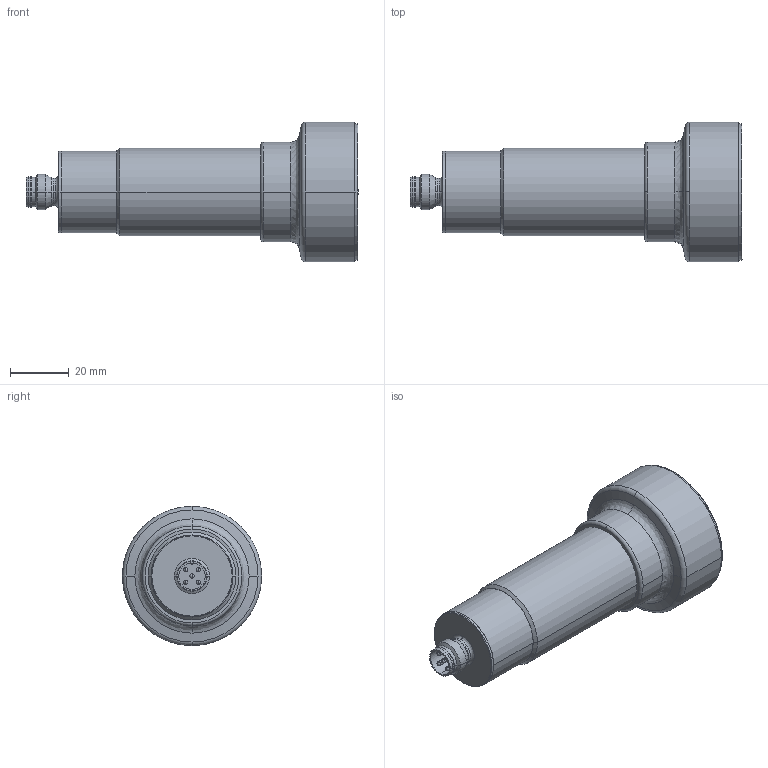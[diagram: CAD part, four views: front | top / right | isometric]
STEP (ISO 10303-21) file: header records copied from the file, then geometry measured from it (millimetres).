
FILE_DESCRIPTION((''),'2;1');
FILE_NAME('C:\Dokumente und Einstellungen\Kramp\Eigene Dateien\Microsonic Nacharb 1\STP\mic-340_XX_M.stp','2005-08-09T11:30:58',('Kramp'),(''),'Autodesk Inventor 7','Autodesk Inventor 7','');
FILE_SCHEMA(('AUTOMOTIVE_DESIGN { 1 0 10303 214 1 1 1 1 }'));
Length unit declared in the file: millimetre
Products named in the file (1): mic-340_XX_M
Bounding box: 113.2 x 47.5 x 47.5 mm (x, y, z)
Volume: 94525.5 mm3; surface area: 14661.5 mm2
Topology: 1 solids, 1 shells, 85 faces, 209 edges, 119 vertices
Faces by surface type: cylinder 35, cone 14, sphere 10, bspline 9, plane 9, torus 8
Entity records: 2702 total; most frequent: CARTESIAN_POINT 695, DIRECTION 481, ORIENTED_EDGE 378, AXIS2_PLACEMENT_3D 215, EDGE_CURVE 189, CIRCLE 138, VERTEX_POINT 119, EDGE_LOOP 98
